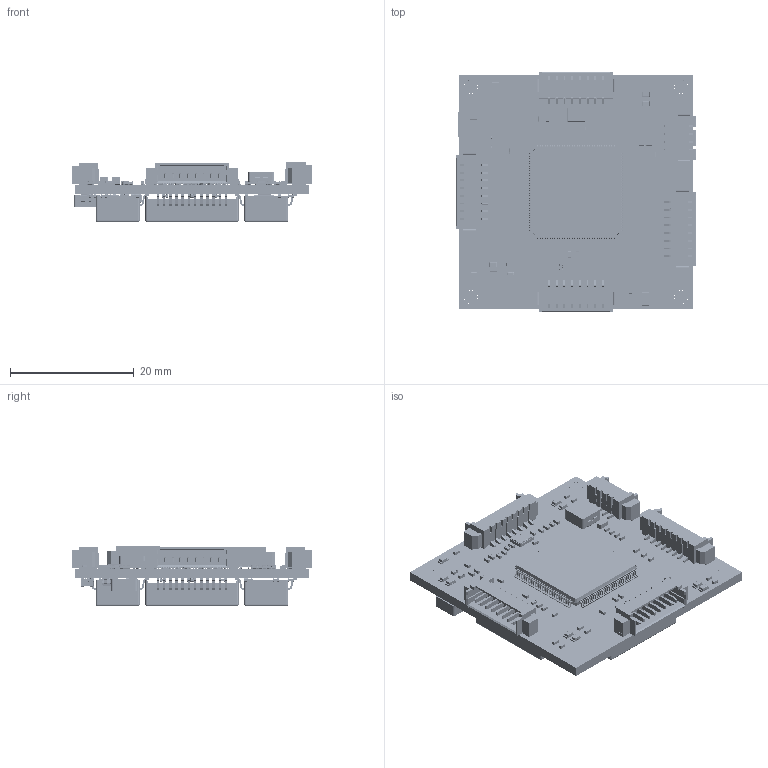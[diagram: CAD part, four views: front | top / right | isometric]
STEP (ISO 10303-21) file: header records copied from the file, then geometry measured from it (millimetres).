
FILE_DESCRIPTION(('Designed by EasyEDA Pro'),'2;1');
FILE_NAME('Open CASCADE Shape Model','2024-05-09T21:54:17',('Author'),( 'Open CASCADE'),'Open CASCADE STEP processor 7.8','Open CASCADE 7.8' ,'Unknown');
FILE_SCHEMA(('AUTOMOTIVE_DESIGN { 1 0 10303 214 1 1 1 1 }'));
Length unit declared in the file: millimetre
Products named in the file (129): PCBModel; Board; OedH-R73; 0402; SOLID; OedH-R2; OedH-R27; OedH-R28; OedH-R1; OedH-R3; OedH-R26; OedH-R4; OedH-R6; OedH-R5; OedH-R20; OedH-R19; OedH-R14; OedH-R63; OedH-R44; OedH-R10; OedH-R38; OedH-R15; OedH-R72; OedH-R75; OedH-R9; OedH-R11; OedH-C6; OedH-R8; OedH-R12; OedH-R24; OedH-R25; OedH-R13; OedH-C112; C0402; OedH-C108; OedH-C93; OedH-C101; OedH-C100; OedH-C103; OedH-C99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
Assembly tree (204 placements, depth 4):
  PCBModel
    Board
    OedH-R73
      0402
        SOLID
    OedH-R2
      0402
        SOLID
    OedH-R27
      0402
        SOLID
    OedH-R28
      0402
        SOLID
    OedH-R1
      0402
        SOLID
    OedH-R3
      0402
        SOLID
    OedH-R26
      0402
        SOLID
    OedH-R4
      0402
        SOLID
    OedH-R6
      0402
        SOLID
    OedH-R5
      0402
        SOLID
    OedH-R20
      0402
        SOLID
    OedH-R19
      0402
        SOLID
    OedH-R14
      0402
        SOLID
    OedH-R63
      0402
        SOLID
    OedH-R44
      0402
        SOLID
    OedH-R10
      0402
        SOLID
    OedH-R38
      0402
        SOLID
    OedH-R15
      0402
        SOLID
    OedH-R72
      0402
        SOLID
    OedH-R75
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Bounding box: 38.85 x 38.85 x 9.8 mm (x, y, z)
Volume: 4812.4 mm3; surface area: 8386.2 mm2
Topology: 201 solids, 201 shells, 35723 faces, 96601 edges, 63052 vertices
Faces by surface type: plane 20690, bspline 9932, cylinder 4473, sphere 616, torus 12
Full cylindrical faces by diameter (mm): 0.003 x1
Entity records: 358391 total; most frequent: CARTESIAN_POINT 84398, ORIENTED_EDGE 46460, DIRECTION 34720, EDGE_CURVE 23230, LINE 16494, VECTOR 16494, VERTEX_POINT 15398, AXIS2_PLACEMENT_3D 9113
